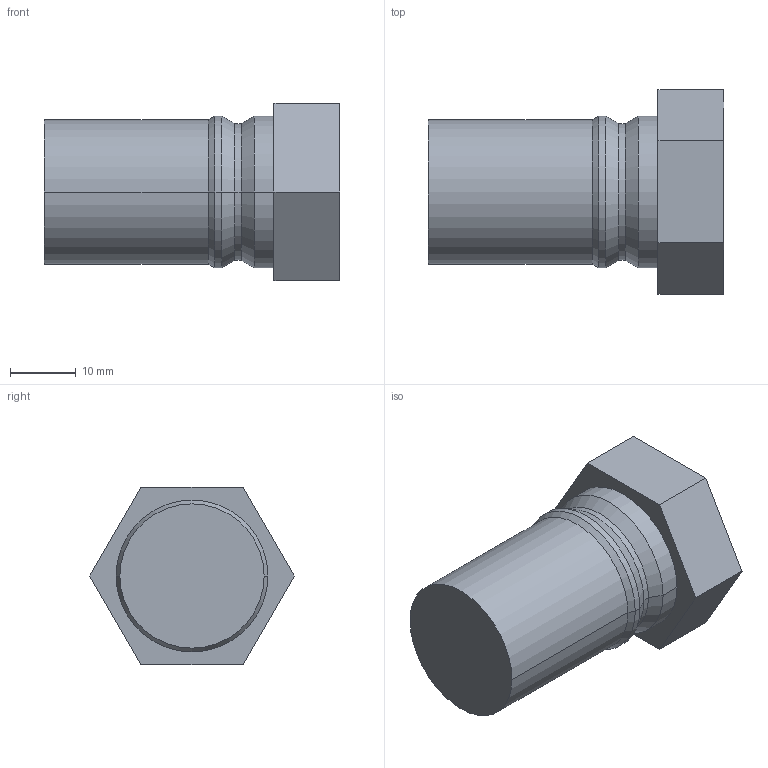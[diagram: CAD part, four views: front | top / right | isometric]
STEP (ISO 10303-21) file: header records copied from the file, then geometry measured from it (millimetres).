
FILE_DESCRIPTION (( 'STEP AP214' ), '1' );
FILE_NAME ('BR601.12 DR 21.STEP', '2020-12-02T13:25:25', ( '' ), ( '' ), 'SwSTEP 2.0', 'SolidWorks 2018', '' );
FILE_SCHEMA (( 'AUTOMOTIVE_DESIGN' ));
Length unit declared in the file: millimetre
Products named in the file (1): BR601.12 DR 21
Bounding box: 45 x 31.18 x 27 mm (x, y, z)
Volume: 19764.6 mm3; surface area: 4642.5 mm2
Topology: 1 solids, 1 shells, 23 faces, 48 edges, 28 vertices
Faces by surface type: plane 9, cylinder 8, cone 6
Entity records: 636 total; most frequent: DIRECTION 112, CARTESIAN_POINT 100, ORIENTED_EDGE 96, EDGE_CURVE 48, AXIS2_PLACEMENT_3D 40, VECTOR 32, LINE 32, VERTEX_POINT 28
